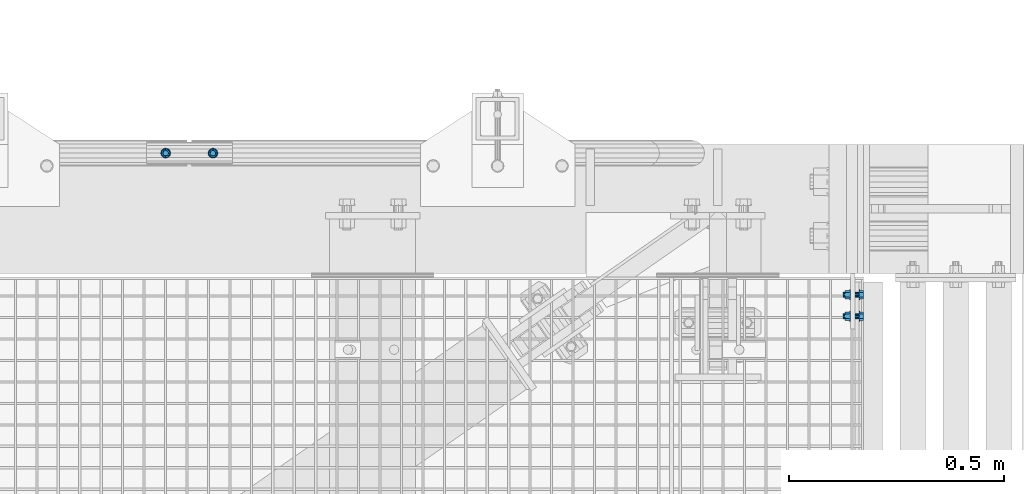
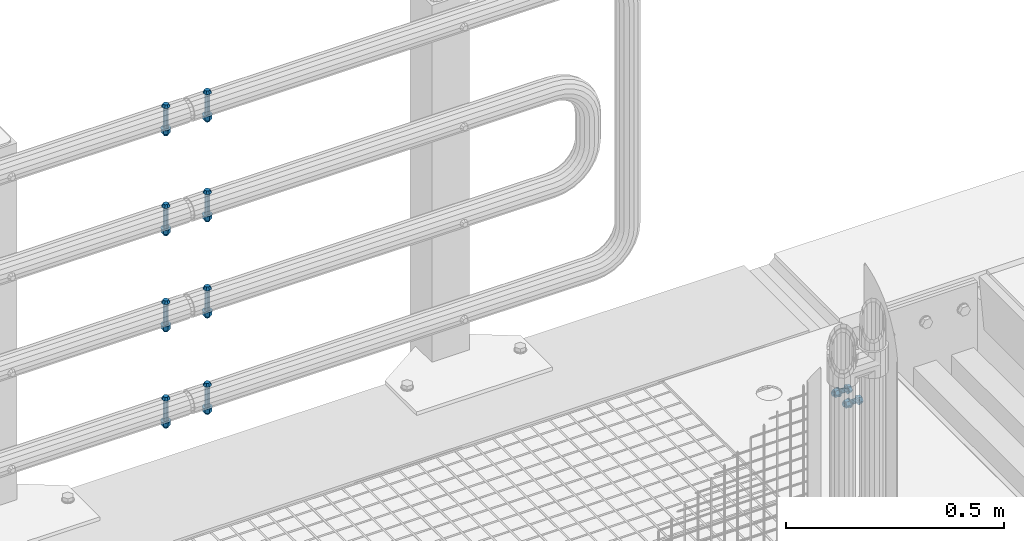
# One storey, part 106 of 1530: 9 mechanical fasteners.
"""IFC2X3 building model written with IfcOpenShell, lengths in millimetres."""

from ifc_helpers import new_model, si_unit, frame, origin_with_axes, place, context, subcontext, project, spatial, faceted_brep, source, transform, mapped, material, type_object, element, save


model = new_model("IFC2X3")

# Units and contexts
model_context = context("Model", 3, precision=1e-05, world=origin_with_axes())
body_context = subcontext(model_context, "Body", "Model", "MODEL_VIEW")
ifc_project = project(units=[si_unit("LENGTHUNIT", "METRE", prefix="MILLI"), si_unit("AREAUNIT", "SQUARE_METRE"), si_unit("VOLUMEUNIT", "CUBIC_METRE"), si_unit("MASSUNIT", "GRAM", prefix="KILO"), si_unit("TIMEUNIT", "SECOND"), si_unit("PLANEANGLEUNIT", "RADIAN"), si_unit("SOLIDANGLEUNIT", "STERADIAN"), si_unit("THERMODYNAMICTEMPERATUREUNIT", "DEGREE_CELSIUS"), si_unit("LUMINOUSINTENSITYUNIT", "LUMEN")], contexts=[model_context])

# Site, building, storey
site_placement = place(None, origin_with_axes())
site = spatial("IfcSite", under=ifc_project, at=site_placement, Name="Brattvåg", CompositionType="ELEMENT")
building_placement = place(site_placement, origin_with_axes())
building = spatial("IfcBuilding", under=site, at=building_placement, Name="Undefined", CompositionType="ELEMENT")
storey_placement = place(building_placement, origin_with_axes())
storey = spatial("IfcBuildingStorey", under=building, at=storey_placement, Name="Undefined", CompositionType="ELEMENT", Elevation=0.0)

# Mechanical fasteners
ifc_material = material(Name="8")
mechanical_fastener_type = type_object("IfcMechanicalFastenerType", Name="Bolt assembly")
shared_shape_1 = source(origin_with_axes(), body_context, "Body", "Brep", [
    faceted_brep([(10.3923048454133, -9.99999999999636, 0.0), (5.19615242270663, -9.99999999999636, 9.0), (-5.19615242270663, -9.99999999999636, 9.0), (-10.3923048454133, -9.99999999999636, 1.27269028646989e-15), (-5.19615242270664, -9.99999999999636, -9.0), (5.19615242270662, -9.99999999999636, -9.0), (5.19615242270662, -2.49999999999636, -9.0), (-5.19615242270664, -2.49999999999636, -9.0), (-10.3923048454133, -2.49999999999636, 1.27269028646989e-15), (-5.19615242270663, -2.49999999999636, 9.0), (5.19615242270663, -2.49999999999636, 9.0), (10.3923048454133, -2.49999999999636, 0.0), (6.0, -2.49999999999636, 0.0), (5.19615242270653, -2.49999999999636, 3.00000000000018), (2.99999999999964, -2.49999999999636, 5.19615242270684), (-6.21801588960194e-13, -2.49999999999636, 6.0), (-3.00000000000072, -2.49999999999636, 5.19615242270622), (-5.19615242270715, -2.49999999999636, 2.9999999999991), (-6.0, -2.49999999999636, -1.24360317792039e-12), (-5.19615242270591, -2.49999999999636, -3.00000000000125), (-2.99999999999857, -2.49999999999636, -5.19615242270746), (1.85874342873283e-12, -2.49999999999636, -6.0), (3.00000000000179, -2.49999999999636, -5.1961524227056), (5.19615242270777, -2.49999999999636, -2.99999999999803), (5.19615242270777, 37.5000000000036, -2.99999999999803), (3.00000000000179, 37.5000000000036, -5.1961524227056), (1.85874342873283e-12, 37.5000000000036, -6.0), (-2.99999999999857, 37.5000000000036, -5.19615242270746), (-5.19615242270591, 37.5000000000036, -3.00000000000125), (-6.0, 37.5000000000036, -1.24360317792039e-12), (-5.19615242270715, 37.5000000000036, 2.9999999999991), (-3.00000000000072, 37.5000000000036, 5.19615242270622), (-6.21801588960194e-13, 37.5000000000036, 6.0), (2.99999999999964, 37.5000000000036, 5.19615242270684), (5.19615242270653, 37.5000000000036, 3.00000000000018), (6.0, 37.5000000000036, 0.0), (12.0, -2.49999999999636, 0.0), (10.3923048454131, -2.49999999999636, 6.00000000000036), (5.99999999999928, -2.49999999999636, 10.3923048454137), (-1.24360317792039e-12, -2.49999999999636, 12.0), (-6.00000000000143, -2.49999999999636, 10.3923048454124), (-10.3923048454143, -2.49999999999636, 5.99999999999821), (-12.0, -2.49999999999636, -2.48720635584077e-12), (-10.3923048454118, -2.49999999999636, -6.00000000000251), (-5.99999999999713, -2.49999999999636, -10.3923048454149), (3.71748685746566e-12, -2.49999999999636, -12.0), (6.00000000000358, -2.49999999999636, -10.3923048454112), (10.3923048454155, -2.49999999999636, -5.99999999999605), (10.3923048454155, 3.63797880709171e-12, -5.99999999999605), (6.00000000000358, 3.63797880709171e-12, -10.3923048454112), (3.71748685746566e-12, 3.63797880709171e-12, -12.0), (-5.99999999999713, 3.63797880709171e-12, -10.3923048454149), (-10.3923048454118, 3.63797880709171e-12, -6.00000000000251), (-12.0, 3.63797880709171e-12, -2.48720635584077e-12), (-10.3923048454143, 3.63797880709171e-12, 5.99999999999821), (-6.00000000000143, 3.63797880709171e-12, 10.3923048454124), (-1.24360317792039e-12, 3.63797880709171e-12, 12.0), (5.99999999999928, 3.63797880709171e-12, 10.3923048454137), (10.3923048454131, 3.63797880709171e-12, 6.00000000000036), (12.0, 3.63797880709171e-12, 0.0), (12.0, 19.9943847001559, 0.0), (10.3923048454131, 19.9943847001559, 6.00000000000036), (5.99999999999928, 19.9943847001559, 10.3923048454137), (-1.24360317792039e-12, 19.9943847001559, 12.0), (-6.00000000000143, 19.9943847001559, 10.3923048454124), (-10.3923048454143, 19.9943847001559, 5.99999999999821), (-12.0, 19.9943847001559, -2.48720635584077e-12), (-10.3923048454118, 19.9943847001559, -6.00000000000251), (-5.99999999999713, 19.9943847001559, -10.3923048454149), (3.71748685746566e-12, 19.9943847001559, -12.0), (6.00000000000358, 19.9943847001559, -10.3923048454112), (10.3923048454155, 19.9943847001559, -5.99999999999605), (10.3923048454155, 22.4943847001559, -5.99999999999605), (6.00000000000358, 22.4943847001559, -10.3923048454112), (3.71748685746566e-12, 22.4943847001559, -12.0), (-5.99999999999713, 22.4943847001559, -10.3923048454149), (-10.3923048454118, 22.4943847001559, -6.00000000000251), (-12.0, 22.4943847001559, -2.48720635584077e-12), (-10.3923048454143, 22.4943847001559, 5.99999999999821), (-6.00000000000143, 22.4943847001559, 10.3923048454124), (-1.24360317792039e-12, 22.4943847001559, 12.0), (5.99999999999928, 22.4943847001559, 10.3923048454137), (10.3923048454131, 22.4943847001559, 6.00000000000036), (12.0, 22.4943847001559, 0.0), (10.3923048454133, 22.4943847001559, 0.0), (5.19615242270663, 22.4943847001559, 9.0), (-5.19615242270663, 22.4943847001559, 9.0), (-10.3923048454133, 22.4943847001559, 1.27269028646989e-15), (-5.19615242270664, 22.4943847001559, -9.0), (5.19615242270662, 22.4943847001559, -9.0), (5.19615242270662, 33.2943848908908, -9.0), (-5.19615242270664, 33.2943848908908, -9.0), (-10.3923048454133, 33.2943848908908, 1.27269028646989e-15), (-5.19615242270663, 33.2943848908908, 9.0), (5.19615242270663, 33.2943848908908, 9.0), (10.3923048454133, 33.2943848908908, 0.0)], [[[0, 1, 2, 3, 4, 5]], [[6, 7, 8, 9, 10, 11]], [[0, 11, 10, 1]], [[1, 10, 9, 2]], [[2, 9, 8, 3]], [[3, 8, 7, 4]], [[4, 7, 6, 5]], [[5, 6, 11, 0]], [[12, 13, 14, 15, 16, 17, 18, 19, 20, 21, 22, 23]], [[24, 25, 26, 27, 28, 29, 30, 31, 32, 33, 34, 35]], [[12, 35, 34, 13]], [[13, 34, 33, 14]], [[14, 33, 32, 15]], [[15, 32, 31, 16]], [[16, 31, 30, 17]], [[17, 30, 29, 18]], [[18, 29, 28, 19]], [[19, 28, 27, 20]], [[20, 27, 26, 21]], [[21, 26, 25, 22]], [[22, 25, 24, 23]], [[23, 24, 35, 12]], [[36, 37, 38, 39, 40, 41, 42, 43, 44, 45, 46, 47]], [[48, 49, 50, 51, 52, 53, 54, 55, 56, 57, 58, 59]], [[36, 59, 58, 37]], [[37, 58, 57, 38]], [[38, 57, 56, 39]], [[39, 56, 55, 40]], [[40, 55, 54, 41]], [[41, 54, 53, 42]], [[42, 53, 52, 43]], [[43, 52, 51, 44]], [[44, 51, 50, 45]], [[45, 50, 49, 46]], [[46, 49, 48, 47]], [[47, 48, 59, 36]], [[60, 61, 62, 63, 64, 65, 66, 67, 68, 69, 70, 71]], [[72, 73, 74, 75, 76, 77, 78, 79, 80, 81, 82, 83]], [[60, 83, 82, 61]], [[61, 82, 81, 62]], [[62, 81, 80, 63]], [[63, 80, 79, 64]], [[64, 79, 78, 65]], [[65, 78, 77, 66]], [[66, 77, 76, 67]], [[67, 76, 75, 68]], [[68, 75, 74, 69]], [[69, 74, 73, 70]], [[70, 73, 72, 71]], [[71, 72, 83, 60]], [[84, 85, 86, 87, 88, 89]], [[90, 91, 92, 93, 94, 95]], [[84, 95, 94, 85]], [[85, 94, 93, 86]], [[86, 93, 92, 87]], [[87, 92, 91, 88]], [[88, 91, 90, 89]], [[89, 90, 95, 84]]]),
    faceted_brep([(6.5, 0.100000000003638, 0.0), (5.62916512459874, 0.100000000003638, 3.25000000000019), (3.24999999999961, 0.100000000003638, 5.62916512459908), (-6.7361838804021e-13, 0.100000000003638, 6.5), (-3.25000000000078, 0.100000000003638, 5.6291651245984), (-5.62916512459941, 0.100000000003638, 3.24999999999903), (-6.5, 0.100000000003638, -1.34723677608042e-12), (-5.62916512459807, 0.100000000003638, -3.25000000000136), (-3.24999999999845, 0.100000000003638, -5.62916512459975), (2.01363871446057e-12, 0.100000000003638, -6.5), (3.25000000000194, 0.100000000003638, -5.62916512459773), (5.62916512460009, 0.100000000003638, -3.24999999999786), (5.62916512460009, 10.1000000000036, -3.24999999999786), (3.25000000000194, 10.1000000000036, -5.62916512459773), (2.01363871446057e-12, 10.1000000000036, -6.5), (-3.24999999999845, 10.1000000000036, -5.62916512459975), (-5.62916512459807, 10.1000000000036, -3.25000000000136), (-6.5, 10.1000000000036, -1.34723677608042e-12), (-5.62916512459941, 10.1000000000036, 3.24999999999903), (-3.25000000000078, 10.1000000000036, 5.6291651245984), (-6.7361838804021e-13, 10.1000000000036, 6.5), (3.24999999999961, 10.1000000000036, 5.62916512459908), (5.62916512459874, 10.1000000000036, 3.25000000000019), (6.5, 10.1000000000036, 0.0), (6.5, 9.89438470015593, 0.0), (5.62916512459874, 9.89438470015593, 3.25000000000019), (3.24999999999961, 9.89438470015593, 5.62916512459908), (-6.7361838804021e-13, 9.89438470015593, 6.5), (-3.25000000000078, 9.89438470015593, 5.6291651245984), (-5.62916512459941, 9.89438470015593, 3.24999999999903), (-6.5, 9.89438470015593, -1.34723677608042e-12), (-5.62916512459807, 9.89438470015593, -3.25000000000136), (-3.24999999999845, 9.89438470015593, -5.62916512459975), (2.01363871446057e-12, 9.89438470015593, -6.5), (3.25000000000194, 9.89438470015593, -5.62916512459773), (5.62916512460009, 9.89438470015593, -3.24999999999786), (5.62916512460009, 19.9943847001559, -3.24999999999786), (3.25000000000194, 19.9943847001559, -5.62916512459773), (2.01363871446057e-12, 19.9943847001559, -6.5), (-3.24999999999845, 19.9943847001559, -5.62916512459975), (-5.62916512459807, 19.9943847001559, -3.25000000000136), (-6.5, 19.9943847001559, -1.34723677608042e-12), (-5.62916512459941, 19.9943847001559, 3.24999999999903), (-3.25000000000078, 19.9943847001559, 5.6291651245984), (-6.7361838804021e-13, 19.9943847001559, 6.5), (3.24999999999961, 19.9943847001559, 5.62916512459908), (5.62916512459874, 19.9943847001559, 3.25000000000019), (6.5, 19.9943847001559, 0.0)], [[[0, 1, 2, 3, 4, 5, 6, 7, 8, 9, 10, 11]], [[12, 13, 14, 15, 16, 17, 18, 19, 20, 21, 22, 23]], [[0, 23, 22, 1]], [[1, 22, 21, 2]], [[2, 21, 20, 3]], [[3, 20, 19, 4]], [[4, 19, 18, 5]], [[5, 18, 17, 6]], [[6, 17, 16, 7]], [[7, 16, 15, 8]], [[8, 15, 14, 9]], [[9, 14, 13, 10]], [[10, 13, 12, 11]], [[11, 12, 23, 0]], [[24, 25, 26, 27, 28, 29, 30, 31, 32, 33, 34, 35]], [[36, 37, 38, 39, 40, 41, 42, 43, 44, 45, 46, 47]], [[24, 47, 46, 25]], [[25, 46, 45, 26]], [[26, 45, 44, 27]], [[27, 44, 43, 28]], [[28, 43, 42, 29]], [[29, 42, 41, 30]], [[30, 41, 40, 31]], [[31, 40, 39, 32]], [[32, 39, 38, 33]], [[33, 38, 37, 34]], [[34, 37, 36, 35]], [[35, 36, 47, 24]]]),
])
mechanical_fastener_1_placement = place(storey_placement, frame((16886.9983721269, 8800.0000953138, -160.000094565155), z_axis=(0.0, 0.0, -1.0), x_axis=(0.0, -1.0, 0.0)))
element("IfcMechanicalFastener", 1, at=mechanical_fastener_1_placement, inside=storey, type_object=mechanical_fastener_type, material=ifc_material, Name="Bolt assembly", NominalDiameter=12.0, NominalLength=40.0, context=body_context, shape_type="MappedRepresentation", body=[
    mapped(shared_shape_1, transform((0.0, 0.0, 0.0))),
    mapped(shared_shape_1, transform((50.0, 0.0, 0.0))),
])
shared_shape_2 = source(origin_with_axes(), body_context, "Body", "Brep", [
    faceted_brep([(6.49435320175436, -7.79994685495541, 0.0), (4.59220118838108, -7.79994685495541, 4.59220118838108), (3.97664443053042e-16, -7.79994685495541, 6.49435320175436), (-4.59220118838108, -7.79994685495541, 4.59220118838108), (-6.49435320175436, -7.79994685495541, 7.95328886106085e-16), (-4.59220118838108, -7.79994685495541, -4.59220118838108), (-1.19299332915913e-15, -7.79994685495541, -6.49435320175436), (4.59220118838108, -7.79994685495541, -4.59220118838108), (7.34846922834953, -0.299946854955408, -7.34846922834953), (-1.90903542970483e-15, -0.299946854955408, -10.3923048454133), (-7.34846922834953, -0.299946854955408, -7.34846922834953), (-10.3923048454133, -0.299946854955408, 1.27269028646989e-15), (-7.34846922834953, -0.299946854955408, 7.34846922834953), (6.36345143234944e-16, -0.299946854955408, 10.3923048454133), (7.34846922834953, -0.299946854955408, 7.34846922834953), (10.3923048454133, -0.299946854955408, 0.0), (6.0, -0.299946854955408, 0.0), (5.19615242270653, -0.299946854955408, 3.00000000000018), (2.99999999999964, -0.299946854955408, 5.19615242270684), (-6.21801588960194e-13, -0.299946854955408, 6.0), (-3.00000000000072, -0.299946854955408, 5.19615242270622), (-5.19615242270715, -0.299946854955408, 2.9999999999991), (-6.0, -0.299946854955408, -1.24360317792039e-12), (-5.19615242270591, -0.299946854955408, -3.00000000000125), (-2.99999999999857, -0.299946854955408, -5.19615242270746), (1.85874342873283e-12, -0.299946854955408, -6.0), (3.00000000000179, -0.299946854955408, -5.1961524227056), (5.19615242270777, -0.299946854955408, -2.99999999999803), (5.19615242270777, 79.7000531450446, -2.99999999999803), (3.00000000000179, 79.7000531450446, -5.1961524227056), (1.85874342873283e-12, 79.7000531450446, -6.0), (-2.99999999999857, 79.7000531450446, -5.19615242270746), (-5.19615242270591, 79.7000531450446, -3.00000000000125), (-6.0, 79.7000531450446, -1.24360317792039e-12), (-5.19615242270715, 79.7000531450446, 2.9999999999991), (-3.00000000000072, 79.7000531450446, 5.19615242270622), (-6.21801588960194e-13, 79.7000531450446, 6.0), (2.99999999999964, 79.7000531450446, 5.19615242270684), (5.19615242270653, 79.7000531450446, 3.00000000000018), (6.0, 79.7000531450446, 0.0), (12.0, 59.9989488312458, 0.0), (10.3923048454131, 59.9989488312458, 6.00000000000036), (5.99999999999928, 59.9989488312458, 10.3923048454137), (-1.24360317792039e-12, 59.9989488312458, 12.0), (-6.00000000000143, 59.9989488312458, 10.3923048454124), (-10.3923048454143, 59.9989488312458, 5.99999999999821), (-12.0, 59.9989488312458, -2.48720635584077e-12), (-10.3923048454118, 59.9989488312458, -6.00000000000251), (-5.99999999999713, 59.9989488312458, -10.3923048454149), (3.71748685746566e-12, 59.9989488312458, -12.0), (6.00000000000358, 59.9989488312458, -10.3923048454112), (10.3923048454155, 59.9989488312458, -5.99999999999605), (10.3923048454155, 62.4989488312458, -5.99999999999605), (6.00000000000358, 62.4989488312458, -10.3923048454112), (3.71748685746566e-12, 62.4989488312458, -12.0), (-5.99999999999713, 62.4989488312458, -10.3923048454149), (-10.3923048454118, 62.4989488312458, -6.00000000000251), (-12.0, 62.4989488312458, -2.48720635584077e-12), (-10.3923048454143, 62.4989488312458, 5.99999999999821), (-6.00000000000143, 62.4989488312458, 10.3923048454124), (-1.24360317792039e-12, 62.4989488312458, 12.0), (5.99999999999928, 62.4989488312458, 10.3923048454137), (10.3923048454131, 62.4989488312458, 6.00000000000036), (12.0, 62.4989488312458, 0.0), (10.9696551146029, 62.4989488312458, 0.0), (5.48482755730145, 62.4989488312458, 9.5), (-5.48482755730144, 62.4989488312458, 9.5), (-10.9696551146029, 62.4989488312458, 1.34339530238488e-15), (-5.48482755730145, 62.4989488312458, -9.5), (5.48482755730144, 62.4989488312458, -9.5), (5.48482755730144, 73.2989490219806, -9.5), (-5.48482755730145, 73.2989490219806, -9.5), (-10.9696551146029, 73.2989490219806, 1.34339530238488e-15), (-5.48482755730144, 73.2989490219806, 9.5), (5.48482755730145, 73.2989490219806, 9.5), (10.9696551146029, 73.2989490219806, 0.0)], [[[0, 1, 2, 3, 4, 5, 6, 7]], [[8, 9, 10, 11, 12, 13, 14, 15]], [[0, 15, 14, 1]], [[1, 14, 13, 2]], [[2, 13, 12, 3]], [[3, 12, 11, 4]], [[4, 11, 10, 5]], [[5, 10, 9, 6]], [[6, 9, 8, 7]], [[7, 8, 15, 0]], [[16, 17, 18, 19, 20, 21, 22, 23, 24, 25, 26, 27]], [[28, 29, 30, 31, 32, 33, 34, 35, 36, 37, 38, 39]], [[16, 39, 38, 17]], [[17, 38, 37, 18]], [[18, 37, 36, 19]], [[19, 36, 35, 20]], [[20, 35, 34, 21]], [[21, 34, 33, 22]], [[22, 33, 32, 23]], [[23, 32, 31, 24]], [[24, 31, 30, 25]], [[25, 30, 29, 26]], [[26, 29, 28, 27]], [[27, 28, 39, 16]], [[40, 41, 42, 43, 44, 45, 46, 47, 48, 49, 50, 51]], [[52, 53, 54, 55, 56, 57, 58, 59, 60, 61, 62, 63]], [[40, 63, 62, 41]], [[41, 62, 61, 42]], [[42, 61, 60, 43]], [[43, 60, 59, 44]], [[44, 59, 58, 45]], [[45, 58, 57, 46]], [[46, 57, 56, 47]], [[47, 56, 55, 48]], [[48, 55, 54, 49]], [[49, 54, 53, 50]], [[50, 53, 52, 51]], [[51, 52, 63, 40]], [[64, 65, 66, 67, 68, 69]], [[70, 71, 72, 73, 74, 75]], [[64, 75, 74, 65]], [[65, 74, 73, 66]], [[66, 73, 72, 67]], [[67, 72, 71, 68]], [[68, 71, 70, 69]], [[69, 70, 75, 64]]]),
    faceted_brep([(6.5, -0.199946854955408, 0.0), (5.62916512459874, -0.199946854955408, 3.25000000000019), (3.24999999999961, -0.199946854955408, 5.62916512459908), (-6.7361838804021e-13, -0.199946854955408, 6.5), (-3.25000000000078, -0.199946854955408, 5.6291651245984), (-5.62916512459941, -0.199946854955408, 3.24999999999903), (-6.5, -0.199946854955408, -1.34723677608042e-12), (-5.62916512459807, -0.199946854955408, -3.25000000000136), (-3.24999999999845, -0.199946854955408, -5.62916512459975), (2.01363871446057e-12, -0.199946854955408, -6.5), (3.25000000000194, -0.199946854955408, -5.62916512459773), (5.62916512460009, -0.199946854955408, -3.24999999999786), (5.62916512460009, 60.0989488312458, -3.24999999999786), (3.25000000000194, 60.0989488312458, -5.62916512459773), (2.01363871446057e-12, 60.0989488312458, -6.5), (-3.24999999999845, 60.0989488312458, -5.62916512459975), (-5.62916512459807, 60.0989488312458, -3.25000000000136), (-6.5, 60.0989488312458, -1.34723677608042e-12), (-5.62916512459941, 60.0989488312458, 3.24999999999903), (-3.25000000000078, 60.0989488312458, 5.6291651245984), (-6.7361838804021e-13, 60.0989488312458, 6.5), (3.24999999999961, 60.0989488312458, 5.62916512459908), (5.62916512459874, 60.0989488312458, 3.25000000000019), (6.5, 60.0989488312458, 0.0), (6.5, 4.25026510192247, 0.0), (5.62916512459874, 4.25026510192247, 3.25000000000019), (3.24999999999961, 4.25026510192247, 5.62916512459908), (-6.7361838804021e-13, 4.25026510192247, 6.5), (-3.25000000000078, 4.25026510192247, 5.6291651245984), (-5.62916512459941, 4.25026510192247, 3.24999999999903), (-6.5, 4.25026510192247, -1.34723677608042e-12), (-5.62916512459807, 4.25026510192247, -3.25000000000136), (-3.24999999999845, 4.25026510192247, -5.62916512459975), (2.01363871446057e-12, 4.25026510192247, -6.5), (3.25000000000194, 4.25026510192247, -5.62916512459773), (5.62916512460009, 4.25026510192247, -3.24999999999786), (5.62916512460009, 55.3491717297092, -3.24999999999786), (3.25000000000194, 55.3491717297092, -5.62916512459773), (2.01363871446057e-12, 55.3491717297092, -6.5), (-3.24999999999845, 55.3491717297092, -5.62916512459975), (-5.62916512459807, 55.3491717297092, -3.25000000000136), (-6.5, 55.3491717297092, -1.34723677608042e-12), (-5.62916512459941, 55.3491717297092, 3.24999999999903), (-3.25000000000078, 55.3491717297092, 5.6291651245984), (-6.7361838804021e-13, 55.3491717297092, 6.5), (3.24999999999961, 55.3491717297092, 5.62916512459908), (5.62916512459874, 55.3491717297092, 3.25000000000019), (6.5, 55.3491717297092, 0.0)], [[[0, 1, 2, 3, 4, 5, 6, 7, 8, 9, 10, 11]], [[12, 13, 14, 15, 16, 17, 18, 19, 20, 21, 22, 23]], [[0, 23, 22, 1]], [[1, 22, 21, 2]], [[2, 21, 20, 3]], [[3, 20, 19, 4]], [[4, 19, 18, 5]], [[5, 18, 17, 6]], [[6, 17, 16, 7]], [[7, 16, 15, 8]], [[8, 15, 14, 9]], [[9, 14, 13, 10]], [[10, 13, 12, 11]], [[11, 12, 23, 0]], [[24, 25, 26, 27, 28, 29, 30, 31, 32, 33, 34, 35]], [[36, 37, 38, 39, 40, 41, 42, 43, 44, 45, 46, 47]], [[24, 47, 46, 25]], [[25, 46, 45, 26]], [[26, 45, 44, 27]], [[27, 44, 43, 28]], [[28, 43, 42, 29]], [[29, 42, 41, 30]], [[30, 41, 40, 31]], [[31, 40, 39, 32]], [[32, 39, 38, 33]], [[33, 38, 37, 34]], [[34, 37, 36, 35]], [[35, 36, 47, 24]]]),
])
mechanical_fastener_2_placement = place(storey_placement, frame((15381.9998626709, 9129.84988021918, 449.7000579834), z_axis=(1.0, 0.0, 0.0), x_axis=(0.0, -0.999999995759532, -9.20919999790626e-05)))
element("IfcMechanicalFastener", 2, at=mechanical_fastener_2_placement, inside=storey, type_object=mechanical_fastener_type, material=ifc_material, Name="Bolt assembly", NominalDiameter=12.0, NominalLength=80.0, context=body_context, shape_type="MappedRepresentation", body=[
    mapped(shared_shape_2, transform((0.0, 0.0, 0.0))),
])
shared_shape_3 = source(origin_with_axes(), body_context, "Body", "Brep", [
    faceted_brep([(6.49435320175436, -7.50000000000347, 0.0), (4.59220118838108, -7.50000000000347, 4.59220118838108), (3.97664443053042e-16, -7.50000000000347, 6.49435320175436), (-4.59220118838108, -7.50000000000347, 4.59220118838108), (-6.49435320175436, -7.50000000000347, 7.95328886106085e-16), (-4.59220118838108, -7.50000000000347, -4.59220118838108), (-1.19299332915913e-15, -7.50000000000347, -6.49435320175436), (4.59220118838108, -7.50000000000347, -4.59220118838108), (7.34846922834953, -3.46744855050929e-12, -7.34846922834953), (-1.90903542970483e-15, -3.46744855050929e-12, -10.3923048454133), (-7.34846922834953, -3.46744855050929e-12, -7.34846922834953), (-10.3923048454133, 3.46808519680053e-07, 1.27269028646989e-15), (-7.34846922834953, -3.46744855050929e-12, 7.34846922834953), (6.36345143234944e-16, -3.46744855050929e-12, 10.3923048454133), (7.34846922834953, -3.46744855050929e-12, 7.34846922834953), (10.3923048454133, 3.46808519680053e-07, 0.0), (6.0, 3.46808519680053e-07, 0.0), (5.19615242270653, 3.46808519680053e-07, 3.00000000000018), (2.99999999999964, 3.46808519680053e-07, 5.19615242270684), (-6.21801588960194e-13, 3.46808519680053e-07, 6.0), (-3.00000000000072, 3.46808519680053e-07, 5.19615242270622), (-5.19615242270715, 3.46808519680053e-07, 2.9999999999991), (-6.0, 3.46808519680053e-07, -1.24360317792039e-12), (-5.19615242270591, 3.46808519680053e-07, -3.00000000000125), (-2.99999999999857, 3.46808519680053e-07, -5.19615242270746), (1.85874342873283e-12, 3.46808519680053e-07, -6.0), (3.00000000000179, 3.46808519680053e-07, -5.1961524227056), (5.19615242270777, 3.46808519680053e-07, -2.99999999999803), (5.19615242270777, 79.9999999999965, -2.99999999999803), (3.00000000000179, 79.9999999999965, -5.1961524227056), (1.85874342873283e-12, 79.9999999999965, -6.0), (-2.99999999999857, 79.9999999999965, -5.19615242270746), (-5.19615242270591, 79.9999999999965, -3.00000000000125), (-6.0, 79.9999999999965, -1.24360317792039e-12), (-5.19615242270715, 79.9999999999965, 2.9999999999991), (-3.00000000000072, 79.9999999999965, 5.19615242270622), (-6.21801588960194e-13, 79.9999999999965, 6.0), (2.99999999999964, 79.9999999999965, 5.19615242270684), (5.19615242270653, 79.9999999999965, 3.00000000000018), (6.0, 79.9999999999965, 0.0), (12.0, 60.2988956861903, 0.0), (10.3923048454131, 60.2988956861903, 6.00000000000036), (5.99999999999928, 60.2988956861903, 10.3923048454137), (-1.24360317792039e-12, 60.2988956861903, 12.0), (-6.00000000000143, 60.2988956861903, 10.3923048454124), (-10.3923048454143, 60.2988956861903, 5.99999999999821), (-12.0, 60.2988956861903, -2.48720635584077e-12), (-10.3923048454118, 60.2988956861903, -6.00000000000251), (-5.99999999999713, 60.2988956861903, -10.3923048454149), (3.71748685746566e-12, 60.2988956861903, -12.0), (6.00000000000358, 60.2988956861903, -10.3923048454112), (10.3923048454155, 60.2988956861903, -5.99999999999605), (10.3923048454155, 62.7988956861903, -5.99999999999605), (6.00000000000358, 62.7988956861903, -10.3923048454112), (3.71748685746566e-12, 62.7988956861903, -12.0), (-5.99999999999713, 62.7988956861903, -10.3923048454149), (-10.3923048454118, 62.7988956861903, -6.00000000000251), (-12.0, 62.7988956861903, -2.48720635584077e-12), (-10.3923048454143, 62.7988956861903, 5.99999999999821), (-6.00000000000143, 62.7988956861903, 10.3923048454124), (-1.24360317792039e-12, 62.7988956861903, 12.0), (5.99999999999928, 62.7988956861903, 10.3923048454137), (10.3923048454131, 62.7988956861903, 6.00000000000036), (12.0, 62.7988956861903, 0.0), (10.9696551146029, 62.7988956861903, 0.0), (5.48482755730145, 62.7988956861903, 9.5), (-5.48482755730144, 62.7988956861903, 9.5), (-10.9696551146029, 62.7988956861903, 1.34339530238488e-15), (-5.48482755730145, 62.7988956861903, -9.5), (5.48482755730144, 62.7988956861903, -9.5), (5.48482755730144, 73.5988958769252, -9.5), (-5.48482755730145, 73.5988958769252, -9.5), (-10.9696551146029, 73.5988958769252, 1.34339530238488e-15), (-5.48482755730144, 73.5988958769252, 9.5), (5.48482755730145, 73.5988958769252, 9.5), (10.9696551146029, 73.5988958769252, 0.0)], [[[0, 1, 2, 3, 4, 5, 6, 7]], [[8, 9, 10, 11, 12, 13, 14, 15]], [[0, 15, 14, 1]], [[1, 14, 13, 2]], [[2, 13, 12, 3]], [[3, 12, 11, 4]], [[4, 11, 10, 5]], [[5, 10, 9, 6]], [[6, 9, 8, 7]], [[7, 8, 15, 0]], [[16, 17, 18, 19, 20, 21, 22, 23, 24, 25, 26, 27]], [[28, 29, 30, 31, 32, 33, 34, 35, 36, 37, 38, 39]], [[16, 39, 38, 17]], [[17, 38, 37, 18]], [[18, 37, 36, 19]], [[19, 36, 35, 20]], [[20, 35, 34, 21]], [[21, 34, 33, 22]], [[22, 33, 32, 23]], [[23, 32, 31, 24]], [[24, 31, 30, 25]], [[25, 30, 29, 26]], [[26, 29, 28, 27]], [[27, 28, 39, 16]], [[40, 41, 42, 43, 44, 45, 46, 47, 48, 49, 50, 51]], [[52, 53, 54, 55, 56, 57, 58, 59, 60, 61, 62, 63]], [[40, 63, 62, 41]], [[41, 62, 61, 42]], [[42, 61, 60, 43]], [[43, 60, 59, 44]], [[44, 59, 58, 45]], [[45, 58, 57, 46]], [[46, 57, 56, 47]], [[47, 56, 55, 48]], [[48, 55, 54, 49]], [[49, 54, 53, 50]], [[50, 53, 52, 51]], [[51, 52, 63, 40]], [[64, 65, 66, 67, 68, 69]], [[70, 71, 72, 73, 74, 75]], [[64, 75, 74, 65]], [[65, 74, 73, 66]], [[66, 73, 72, 67]], [[67, 72, 71, 68]], [[68, 71, 70, 69]], [[69, 70, 75, 64]]]),
    faceted_brep([(6.5, 0.100000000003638, 0.0), (5.62916512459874, 0.100000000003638, 3.25000000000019), (3.24999999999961, 0.100000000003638, 5.62916512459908), (-6.7361838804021e-13, 0.100000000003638, 6.5), (-3.25000000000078, 0.100000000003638, 5.6291651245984), (-5.62916512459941, 0.100000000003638, 3.24999999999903), (-6.5, 0.100000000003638, -1.34723677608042e-12), (-5.62916512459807, 0.100000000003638, -3.25000000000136), (-3.24999999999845, 0.100000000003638, -5.62916512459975), (2.01363871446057e-12, 0.100000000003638, -6.5), (3.25000000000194, 0.100000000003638, -5.62916512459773), (5.62916512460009, 0.100000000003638, -3.24999999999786), (5.62916512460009, 60.3988956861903, -3.24999999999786), (3.25000000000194, 60.3988956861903, -5.62916512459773), (2.01363871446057e-12, 60.3988956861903, -6.5), (-3.24999999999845, 60.3988956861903, -5.62916512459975), (-5.62916512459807, 60.3988956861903, -3.25000000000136), (-6.5, 60.3988956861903, -1.34723677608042e-12), (-5.62916512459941, 60.3988956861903, 3.24999999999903), (-3.25000000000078, 60.3988956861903, 5.6291651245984), (-6.7361838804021e-13, 60.3988956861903, 6.5), (3.24999999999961, 60.3988956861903, 5.62916512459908), (5.62916512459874, 60.3988956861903, 3.25000000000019), (6.5, 60.3988956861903, 0.0), (6.5, 4.25026510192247, 0.0), (5.62916512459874, 4.25026510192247, 3.25000000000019), (3.24999999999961, 4.25026510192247, 5.62916512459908), (-6.7361838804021e-13, 4.25026510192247, 6.5), (-3.25000000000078, 4.25026510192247, 5.6291651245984), (-5.62916512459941, 4.25026510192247, 3.24999999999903), (-6.5, 4.25026510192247, -1.34723677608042e-12), (-5.62916512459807, 4.25026510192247, -3.25000000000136), (-3.24999999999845, 4.25026510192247, -5.62916512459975), (2.01363871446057e-12, 4.25026510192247, -6.5), (3.25000000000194, 4.25026510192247, -5.62916512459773), (5.62916512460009, 4.25026510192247, -3.24999999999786), (5.62916512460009, 55.3491717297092, -3.24999999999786), (3.25000000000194, 55.3491717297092, -5.62916512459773), (2.01363871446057e-12, 55.3491717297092, -6.5), (-3.24999999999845, 55.3491717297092, -5.62916512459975), (-5.62916512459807, 55.3491717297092, -3.25000000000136), (-6.5, 55.3491717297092, -1.34723677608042e-12), (-5.62916512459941, 55.3491717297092, 3.24999999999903), (-3.25000000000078, 55.3491717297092, 5.6291651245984), (-6.7361838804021e-13, 55.3491717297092, 6.5), (3.24999999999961, 55.3491717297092, 5.62916512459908), (5.62916512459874, 55.3491717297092, 3.25000000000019), (6.5, 55.3491717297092, 0.0)], [[[0, 1, 2, 3, 4, 5, 6, 7, 8, 9, 10, 11]], [[12, 13, 14, 15, 16, 17, 18, 19, 20, 21, 22, 23]], [[0, 23, 22, 1]], [[1, 22, 21, 2]], [[2, 21, 20, 3]], [[3, 20, 19, 4]], [[4, 19, 18, 5]], [[5, 18, 17, 6]], [[6, 17, 16, 7]], [[7, 16, 15, 8]], [[8, 15, 14, 9]], [[9, 14, 13, 10]], [[10, 13, 12, 11]], [[11, 12, 23, 0]], [[24, 25, 26, 27, 28, 29, 30, 31, 32, 33, 34, 35]], [[36, 37, 38, 39, 40, 41, 42, 43, 44, 45, 46, 47]], [[24, 47, 46, 25]], [[25, 46, 45, 26]], [[26, 45, 44, 27]], [[27, 44, 43, 28]], [[28, 43, 42, 29]], [[29, 42, 41, 30]], [[30, 41, 40, 31]], [[31, 40, 39, 32]], [[32, 39, 38, 33]], [[33, 38, 37, 34]], [[34, 37, 36, 35]], [[35, 36, 47, 24]]]),
])
for number, where, z_axis, x_axis, name in (
    (3, (15272.0001373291, 9129.84988021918, 179.7000579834), (1.0, 0.0, 0.0), (0.0, -0.999999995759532, -9.20919999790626e-05), "Bolt assembly"),
    (4, (15272.0001373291, 9129.84988021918, 449.7000579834), (1.0, 0.0, 0.0), (0.0, -0.999999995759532, -9.20919999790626e-05), "Bolt assembly"),
    (5, (15272.0001373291, 9129.84988021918, 719.7000579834), (1.0, 0.0, 0.0), (0.0, -0.999999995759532, -9.20919999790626e-05), "Bolt assembly"),
    (6, (15381.9998626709, 9129.84988021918, 179.7000579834), (1.0, 0.0, 0.0), (0.0, -0.999999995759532, -9.20919999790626e-05), "Bolt assembly"),
    (7, (15381.9998626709, 9129.84988021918, 999.7000579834), (1.0, 0.0, 0.0), (0.0, -0.999999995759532, -9.20919999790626e-05), "Bolt assembly"),
    (8, (15272.0001373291, 9129.84988021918, 999.7000579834), (1.0, 0.0, 0.0), (0.0, -0.999999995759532, -9.20919999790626e-05), "Bolt assembly"),
    (9, (15381.9998626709, 9129.84988021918, 719.7000579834), (1.0, 0.0, 0.0), (0.0, -0.999999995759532, -9.20919999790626e-05), "Bolt assembly"),
):
    element("IfcMechanicalFastener", number, at=place(storey_placement, frame(where, z_axis=z_axis, x_axis=x_axis)), inside=storey, type_object=mechanical_fastener_type, material=ifc_material, Name=name, NominalDiameter=12.0, NominalLength=80.0, context=body_context, shape_type="MappedRepresentation", body=[
        mapped(shared_shape_3, transform((0.0, 0.0, 0.0))),
    ])

save(model, "model.ifc")
